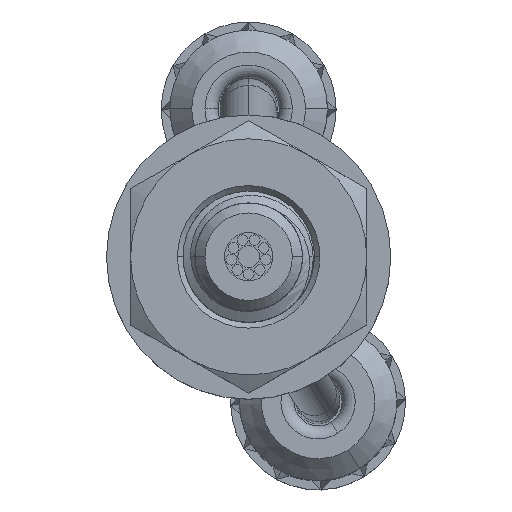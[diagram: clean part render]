
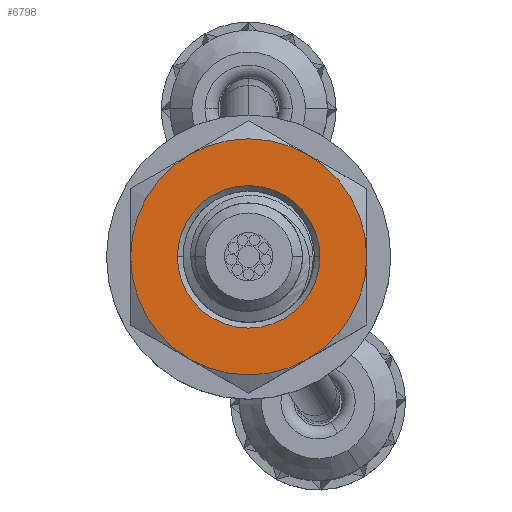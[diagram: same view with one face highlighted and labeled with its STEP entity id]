
A CAD part, top view. The second image highlights one B-rep face of the part: STEP entity #6798.
In plain terms, the highlighted planar face has unit normal (0, 0, 1).
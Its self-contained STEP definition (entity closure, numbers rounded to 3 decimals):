
#2 = PLANE ( 'NONE',  #2565 ) ;
#300 = DIRECTION ( 'NONE',  ( 1., 0., 0. ) ) ;
#479 = ORIENTED_EDGE ( 'NONE', *, *, #14161, .T. ) ;
#767 = CIRCLE ( 'NONE', #1058, 2.7 ) ;
#1058 = AXIS2_PLACEMENT_3D ( 'NONE', #10722, #7765, #13875 ) ;
#1423 = AXIS2_PLACEMENT_3D ( 'NONE', #3175, #9172, #300 ) ;
#1722 = ORIENTED_EDGE ( 'NONE', *, *, #2746, .T. ) ;
#2163 = CARTESIAN_POINT ( 'NONE',  ( 1.608, 16.685, -6.91 ) ) ;
#2390 = DIRECTION ( 'NONE',  ( 0., 0., -1. ) ) ;
#2565 = AXIS2_PLACEMENT_3D ( 'NONE', #4294, #2874, #18004 ) ;
#2707 = CARTESIAN_POINT ( 'NONE',  ( -0.022, 16.685, -6.91 ) ) ;
#2746 = EDGE_CURVE ( 'NONE', #15846, #14540, #6478, .T. ) ;
#2874 = DIRECTION ( 'NONE',  ( 0., 0., -1. ) ) ;
#3175 = CARTESIAN_POINT ( 'NONE',  ( 1.608, 16.685, -6.91 ) ) ;
#3562 = DIRECTION ( 'NONE',  ( 0., 0., -1. ) ) ;
#3769 = ORIENTED_EDGE ( 'NONE', *, *, #15169, .F. ) ;
#4150 = CARTESIAN_POINT ( 'NONE',  ( 0.258, 14.347, -6.91 ) ) ;
#4294 = CARTESIAN_POINT ( 'NONE',  ( 1.608, 16.685, -6.91 ) ) ;
#4834 = AXIS2_PLACEMENT_3D ( 'NONE', #18915, #15920, #11216 ) ;
#4866 = DIRECTION ( 'NONE',  ( 0., 0., -1. ) ) ;
#5069 = ORIENTED_EDGE ( 'NONE', *, *, #11699, .F. ) ;
#5573 = AXIS2_PLACEMENT_3D ( 'NONE', #6691, #2390, #14317 ) ;
#5705 = ORIENTED_EDGE ( 'NONE', *, *, #6062, .F. ) ;
#5784 = VERTEX_POINT ( 'NONE', #4150 ) ;
#6062 = EDGE_CURVE ( 'NONE', #5784, #17016, #767, .T. ) ;
#6478 = CIRCLE ( 'NONE', #1423, 1.63 ) ;
#6691 = CARTESIAN_POINT ( 'NONE',  ( 1.608, 16.685, -6.91 ) ) ;
#6798 = ADVANCED_FACE ( 'NONE', ( #12549, #8499 ), #2, .F. ) ;
#6863 = AXIS2_PLACEMENT_3D ( 'NONE', #9572, #3562, #16980 ) ;
#6908 = DIRECTION ( 'NONE',  ( 0., 0., -1. ) ) ;
#7133 = EDGE_CURVE ( 'NONE', #17016, #16645, #17742, .T. ) ;
#7140 = CIRCLE ( 'NONE', #4834, 2.7 ) ;
#7765 = DIRECTION ( 'NONE',  ( 0., 0., -1. ) ) ;
#7895 = CARTESIAN_POINT ( 'NONE',  ( -1.092, 16.685, -6.91 ) ) ;
#8088 = EDGE_CURVE ( 'NONE', #8279, #15552, #9425, .T. ) ;
#8279 = VERTEX_POINT ( 'NONE', #16456 ) ;
#8381 = DIRECTION ( 'NONE',  ( 1., 0., 0. ) ) ;
#8499 = FACE_OUTER_BOUND ( 'NONE', #13569, .T. ) ;
#8773 = CIRCLE ( 'NONE', #19533, 2.7 ) ;
#8862 = CIRCLE ( 'NONE', #15034, 2.7 ) ;
#8889 = ORIENTED_EDGE ( 'NONE', *, *, #18921, .F. ) ;
#9172 = DIRECTION ( 'NONE',  ( 0., 0., -1. ) ) ;
#9425 = CIRCLE ( 'NONE', #6863, 2.7 ) ;
#9572 = CARTESIAN_POINT ( 'NONE',  ( 1.608, 16.685, -6.91 ) ) ;
#9647 = DIRECTION ( 'NONE',  ( 0., 0., -1. ) ) ;
#10233 = ORIENTED_EDGE ( 'NONE', *, *, #8088, .F. ) ;
#10529 = EDGE_LOOP ( 'NONE', ( #479, #1722 ) ) ;
#10697 = CARTESIAN_POINT ( 'NONE',  ( 2.958, 14.347, -6.91 ) ) ;
#10722 = CARTESIAN_POINT ( 'NONE',  ( 1.608, 16.685, -6.91 ) ) ;
#11216 = DIRECTION ( 'NONE',  ( 1., 0., 0. ) ) ;
#11573 = CARTESIAN_POINT ( 'NONE',  ( 3.237, 16.685, -6.91 ) ) ;
#11699 = EDGE_CURVE ( 'NONE', #19293, #8279, #7140, .T. ) ;
#12549 = FACE_BOUND ( 'NONE', #10529, .T. ) ;
#13569 = EDGE_LOOP ( 'NONE', ( #10233, #5069, #3769, #14480, #5705, #8889 ) ) ;
#13875 = DIRECTION ( 'NONE',  ( 1., 0., 0. ) ) ;
#14161 = EDGE_CURVE ( 'NONE', #14540, #15846, #18404, .T. ) ;
#14317 = DIRECTION ( 'NONE',  ( 1., 0., 0. ) ) ;
#14480 = ORIENTED_EDGE ( 'NONE', *, *, #7133, .F. ) ;
#14540 = VERTEX_POINT ( 'NONE', #2707 ) ;
#14771 = AXIS2_PLACEMENT_3D ( 'NONE', #18583, #4866, #18515 ) ;
#15034 = AXIS2_PLACEMENT_3D ( 'NONE', #15857, #9647, #17183 ) ;
#15169 = EDGE_CURVE ( 'NONE', #16645, #19293, #8862, .T. ) ;
#15552 = VERTEX_POINT ( 'NONE', #10697 ) ;
#15846 = VERTEX_POINT ( 'NONE', #11573 ) ;
#15857 = CARTESIAN_POINT ( 'NONE',  ( 1.608, 16.685, -6.91 ) ) ;
#15920 = DIRECTION ( 'NONE',  ( 0., 0., -1. ) ) ;
#16456 = CARTESIAN_POINT ( 'NONE',  ( 4.308, 16.685, -6.91 ) ) ;
#16541 = CARTESIAN_POINT ( 'NONE',  ( 2.958, 19.024, -6.91 ) ) ;
#16645 = VERTEX_POINT ( 'NONE', #19551 ) ;
#16980 = DIRECTION ( 'NONE',  ( 1., 0., 0. ) ) ;
#17016 = VERTEX_POINT ( 'NONE', #7895 ) ;
#17183 = DIRECTION ( 'NONE',  ( 1., 0., 0. ) ) ;
#17742 = CIRCLE ( 'NONE', #5573, 2.7 ) ;
#18004 = DIRECTION ( 'NONE',  ( 1., 0., 0. ) ) ;
#18404 = CIRCLE ( 'NONE', #14771, 1.63 ) ;
#18515 = DIRECTION ( 'NONE',  ( 1., 0., 0. ) ) ;
#18583 = CARTESIAN_POINT ( 'NONE',  ( 1.608, 16.685, -6.91 ) ) ;
#18915 = CARTESIAN_POINT ( 'NONE',  ( 1.608, 16.685, -6.91 ) ) ;
#18921 = EDGE_CURVE ( 'NONE', #15552, #5784, #8773, .T. ) ;
#19293 = VERTEX_POINT ( 'NONE', #16541 ) ;
#19533 = AXIS2_PLACEMENT_3D ( 'NONE', #2163, #6908, #8381 ) ;
#19551 = CARTESIAN_POINT ( 'NONE',  ( 0.258, 19.024, -6.91 ) ) ;
